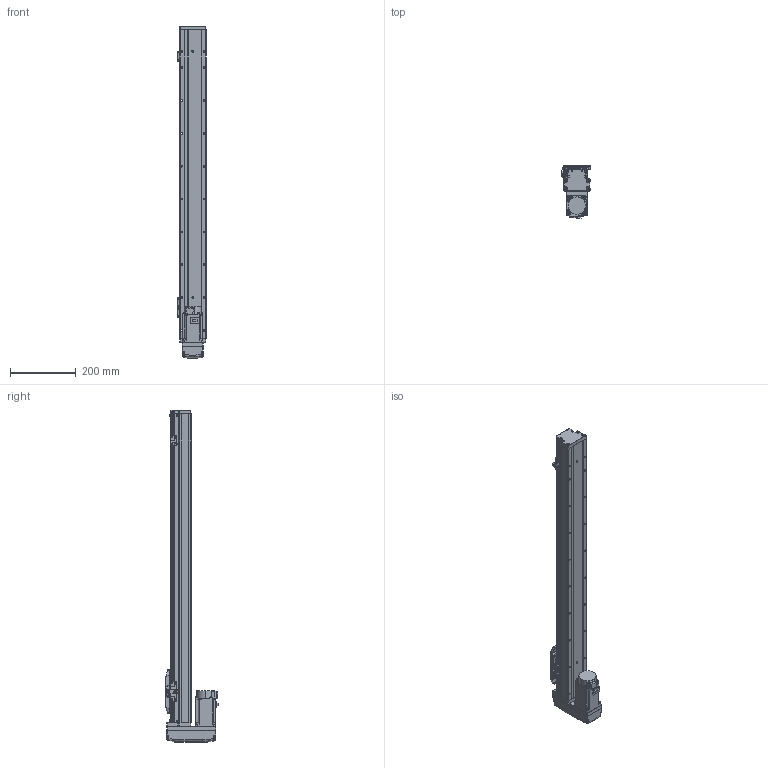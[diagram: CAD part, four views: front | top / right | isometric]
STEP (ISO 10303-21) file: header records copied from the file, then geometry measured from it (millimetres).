
FILE_DESCRIPTION (( 'STEP AP203' ), '1' );
FILE_NAME ('GTH8-750-BM-M20-C4.step', '2022-09-23T01:06:25', ( '微软用户' ), ( '微软中国' ), 'SwSTEP 2.0', 'SolidWorks 2020', '' );
FILE_SCHEMA (( 'CONFIG_CONTROL_DESIGN' ));
Length unit declared in the file: millimetre
Products named in the file (18): CTHA86-015-1_CTHA86-015-2; GTH80-004; GTH80-028; CTHA86-033_M40B; GTH80-006; GTH50-024; GTH8-750-BM-M20-C4; GTH80-013; GTH50-023; GBT 70.3-M3℅6; GBT96.1-2002 3×0.8; GTH80-022; BTH-M3X5X6; GTH80-001_750; GBT 70.1-M3℅6; hg-kn43j_-s100_; GTH80-003; GBT 70.1-M4×16
Assembly tree (57 placements, depth 2):
  GTH8-750-BM-M20-C4
    GTH80-001_750
    GTH80-003
    GTH80-004
    GTH80-006
    GTH80-013
    GBT 70.3-M3℅6  x4
    GTH80-022
    GBT 70.1-M3℅6  x14
    GBT 70.1-M4×16  x8
    GTH80-028  x2
    GTH50-024  x3
    GTH50-023  x3
    GBT96.1-2002 3×0.8  x6
    BTH-M3X5X6  x8
    hg-kn43j_-s100_
    CTHA86-015-1_CTHA86-015-2
    CTHA86-033_M40B
Bounding box: 86.9 x 160.3 x 1011 mm (x, y, z)
Volume: 5058425.4 mm3; surface area: 513963.7 mm2
Topology: 59 solids, 59 shells, 2248 faces, 5199 edges, 3187 vertices
Faces by surface type: plane 1187, cylinder 619, cone 260, torus 166, bspline 8, sphere 8
Entity records: 41218 total; most frequent: CARTESIAN_POINT 7241, DIRECTION 6705, ORIENTED_EDGE 6216, EDGE_CURVE 3108, AXIS2_PLACEMENT_3D 2349, VECTOR 2007, LINE 2007, VERTEX_POINT 1962
